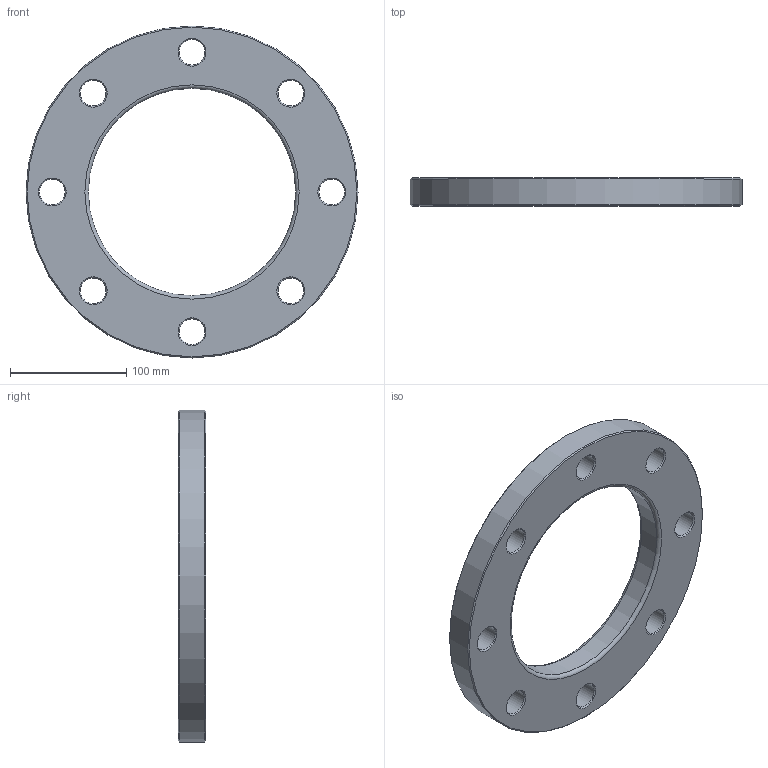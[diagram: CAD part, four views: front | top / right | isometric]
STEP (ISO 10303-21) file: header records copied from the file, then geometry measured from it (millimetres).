
FILE_DESCRIPTION(/* description */ ('Unknown'),/* implementation_level */ '2;1');
FILE_NAME(/* name */ 'FR160C',/* time_stamp */ '2022-07-05T16:53:06+02:00',/* author */ ('Unknown'),/* organization */ ('Unknown'),/* preprocessor_version */ 'ST-DEVELOPER v18.102',/* originating_system */ 'Solid Edge',/* authorisation */ 'Unknown');
FILE_SCHEMA (('AUTOMOTIVE_DESIGN {1 0 10303 214 3 1 1}'));
Length unit declared in the file: millimetre
Products named in the file (1): FR160C
Bounding box: 285 x 24 x 285 mm (x, y, z)
Volume: 857201.1 mm3; surface area: 116805.6 mm2
Topology: 1 solids, 1 shells, 32 faces, 94 edges, 64 vertices
Faces by surface type: cone 18, cylinder 10, plane 2, torus 2
Full cylindrical faces by diameter (mm): 22 x8, 178 x1, 285 x1
Entity records: 790 total; most frequent: DIRECTION 146, CARTESIAN_POINT 113, ORIENTED_EDGE 80, EDGE_LOOP 80, FACE_BOUND 80, AXIS2_PLACEMENT_3D 73, EDGE_CURVE 40, VERTEX_POINT 40
